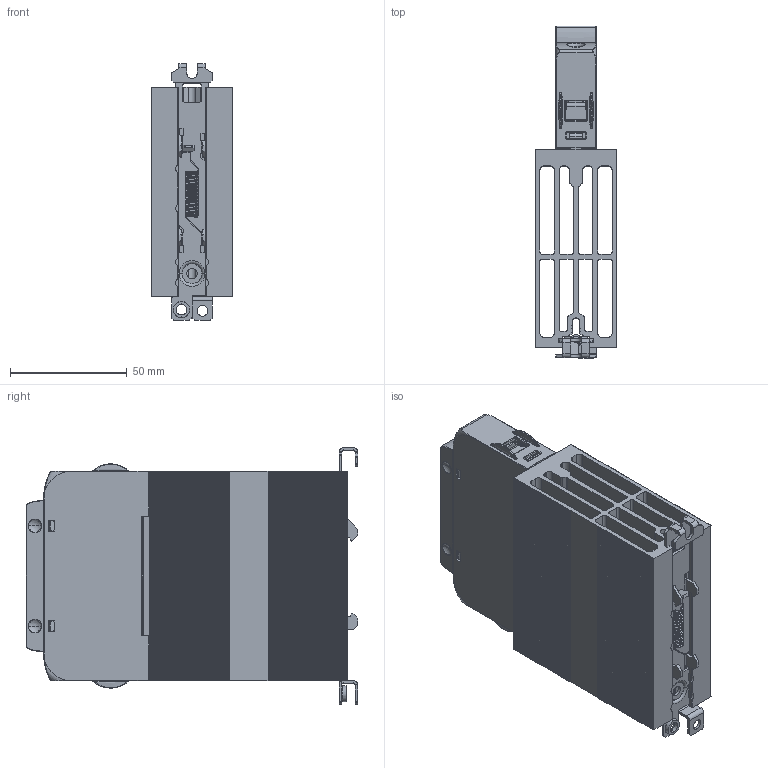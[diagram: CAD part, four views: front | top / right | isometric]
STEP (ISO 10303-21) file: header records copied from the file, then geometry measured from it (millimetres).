
FILE_DESCRIPTION((''),'2;1');
FILE_NAME('A1901_GRSH','2020-03-05T17:04:03',('giuseppe.bertuccio'),('GEFRAN S.p.A via Carducci,24 21040 Gerenzano (VA)'),'CREO PARAMETRIC BY PTC INC, 2018300','CREO PARAMETRIC BY PTC INC, 2018300','');
FILE_SCHEMA(('AUTOMOTIVE_DESIGN { 1 0 10303 214 1 1 1 1 }'));
Products named in the file (22): DIS00957_52860; DIS00964_CTT276_AF1; DIS00964_CTT276; DIS00966_46229; 48226; DIS00966_46229A; A1901_T1; DIS00966_46229A_OPEN; A1901_T1_OPEN; DIS00958; DIS00958_52861; 48225; DIS00959; DIS00959_PRINTINGS; A1901_GRS; DIS00983_62138A; DIS00962_52875; DIS00960_52877_W; DIS00963_52876; DIS00983; A1901_GRSH
Assembly tree (25 placements, depth 5):
  A1901_GRSH
    A1901_GRS
      DIS00957_52860
      A1901_T1
        DIS00964_CTT276
          DIS00964_CTT276_AF1
        DIS00966_46229A
          DIS00966_46229
          48226
      A1901_T1_OPEN
        DIS00964_CTT276
          DIS00964_CTT276_AF1
        DIS00966_46229A_OPEN
          DIS00966_46229
          48226
      DIS00958_52861
        DIS00958
      48225  x2
      DIS00959_PRINTINGS
        DIS00959
          DIS00959
    DIS00983
      DIS00983_62138A
      DIS00962_52875
      DIS00960_52877_W
      DIS00963_52876
Bounding box: 35 x 142.3 x 110 mm (x, y, z)
Volume: 140747.5 mm3; surface area: 142211.7 mm2
Topology: 21 solids, 21 shells, 5861 faces, 14620 edges, 8827 vertices
Faces by surface type: plane 2321, cylinder 1807, bspline 946, sphere 292, torus 237, cone 228, extrusion 16, revolution 14
Entity records: 278259 total; most frequent: CARTESIAN_POINT 86516, ORIENTED_EDGE 27592, DIRECTION 24412, PRESENTATION_STYLE_ASSIGNMENT 16269, STYLED_ITEM 16088, CURVE_STYLE 13822, EDGE_CURVE 13796, AXIS2_PLACEMENT_3D 8383
